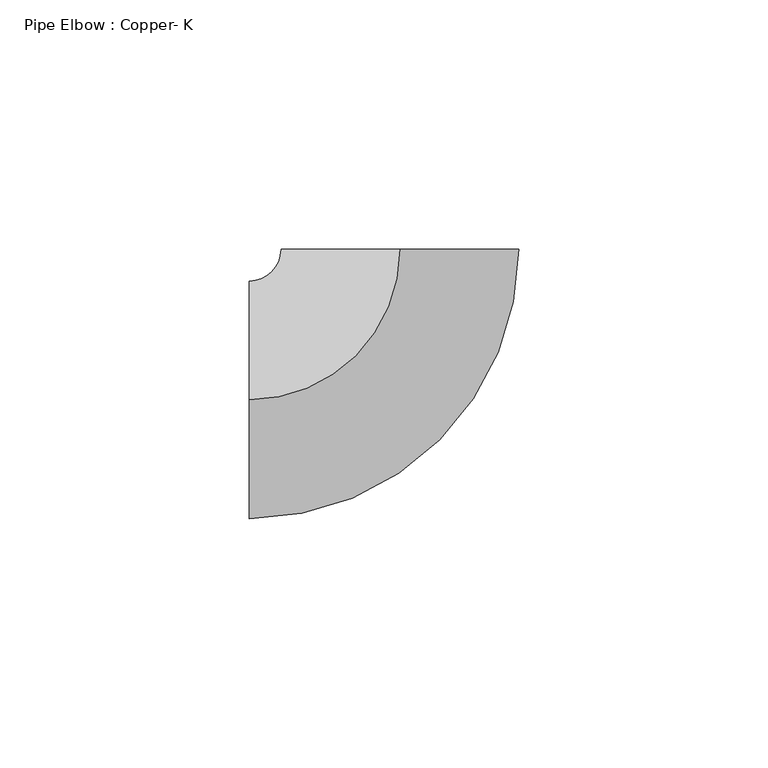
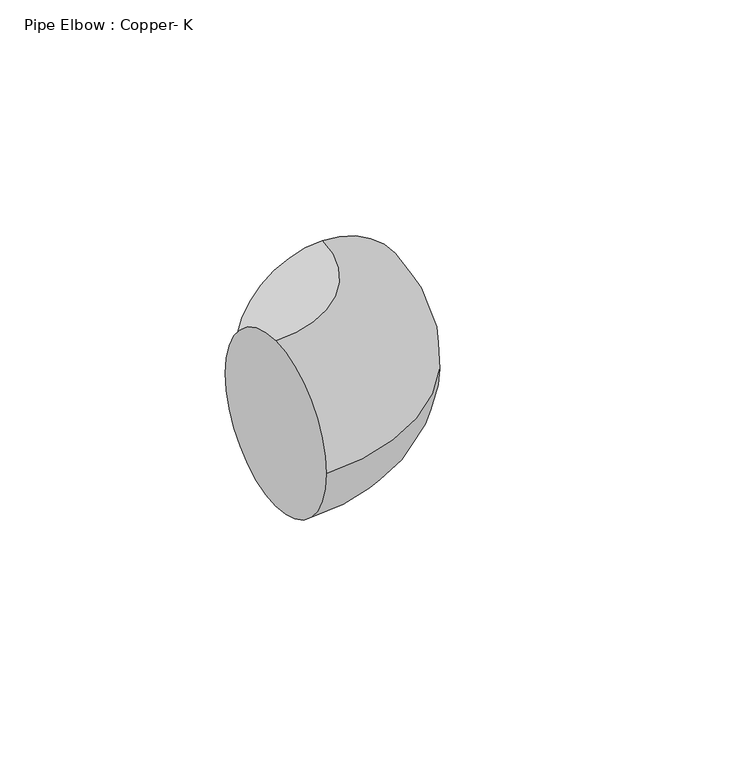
"""IFC4 building model written with IfcOpenShell, lengths in millimetres: pipe fitting geometry, Pipe Elbow : Copper- K."""

import ifcopenshell
import ifcopenshell.guid

model = None  # the IFC model being written
_history = None  # IfcOwnerHistory: only IFC2X3 demands one
_inside = {}  # id of a spatial element -> (the spatial element, [elements in it])
_under = {}  # id of a project, library or spatial element -> (it, [spatial elements below it])
_declared = {}  # id of a project -> (the project, [libraries it declares])
_typed = {}  # id of a type object -> (the type object, [elements of that type])
_made_of = {}  # id of a material, layer set ... -> (it, [elements and type objects made of it])


def new_model(schema):
    """Start an empty IFC model of exactly this schema.

    Asked for "IFC4X3", IfcOpenShell would pick the latest addendum, in which some entities
    have other attributes; the version numbers below select the first issue.
    IFC2X3 requires an IfcOwnerHistory on every rooted entity: one is made here for all.
    """
    global model, _history
    if schema == "IFC4X3":
        model = ifcopenshell.file(schema_version=(4, 3, 0, 0))
    else:
        model = ifcopenshell.file(schema=schema)
    _inside.clear()
    _under.clear()
    _declared.clear()
    _typed.clear()
    _made_of.clear()
    _history = None
    if model.schema == "IFC2X3":
        org = make("IfcOrganization", Name="unknown")
        user = make(
            "IfcPersonAndOrganization",
            ThePerson=make("IfcPerson", FamilyName="unknown"),
            TheOrganization=org,
        )
        app = make(
            "IfcApplication",
            ApplicationDeveloper=org,
            Version="unknown",
            ApplicationFullName="unknown",
            ApplicationIdentifier="unknown",
        )
        _history = make(
            "IfcOwnerHistory",
            OwningUser=user,
            OwningApplication=app,
            ChangeAction="ADDED",
            CreationDate=0,
        )
    return model


def make(cls, **values):
    """One entity of the class cls with the attributes given. An attribute that is None is left unset."""
    return model.create_entity(
        cls, **{name: value for name, value in values.items() if value is not None}
    )


def rooted(cls, **values):
    """An entity with a GlobalId (a new one), such as an element, a storey or a relation."""
    return make(cls, GlobalId=ifcopenshell.guid.new(), OwnerHistory=_history, **values)


def si_unit(unit_type, name, prefix=None):
    """IfcSIUnit, for example si_unit("LENGTHUNIT", "METRE", prefix="MILLI")."""
    return make("IfcSIUnit", UnitType=unit_type, Prefix=prefix, Name=name)


def assignment(units):
    """IfcUnitAssignment: the units of a project."""
    return None if units is None else make("IfcUnitAssignment", Units=units)


def point(xyz):
    """IfcCartesianPoint."""
    return None if xyz is None else make("IfcCartesianPoint", Coordinates=xyz)


def direction(xyz):
    """IfcDirection."""
    return None if xyz is None else make("IfcDirection", DirectionRatios=xyz)


def frame(location, z_axis=None, x_axis=None):
    """IfcAxis2Placement3D, a coordinate frame: its origin and axes. An axis left out is left unset."""
    return make(
        "IfcAxis2Placement3D",
        Location=point(location),
        Axis=direction(z_axis),
        RefDirection=direction(x_axis),
    )


def origin():
    """The frame at (0, 0, 0) with its axes left unset."""
    return frame((0.0, 0.0, 0.0))


def place(relative_to, where):
    """IfcLocalPlacement: puts the frame where relative to a parent placement (None: the world)."""
    return make(
        "IfcLocalPlacement", PlacementRelTo=relative_to, RelativePlacement=where
    )


def context(
    kind, dimensions, precision=None, world=None, true_north=None, identifier=None
):
    """IfcGeometricRepresentationContext, for example the 3D "Model" context."""
    return make(
        "IfcGeometricRepresentationContext",
        ContextIdentifier=identifier,
        ContextType=kind,
        CoordinateSpaceDimension=dimensions,
        Precision=precision,
        WorldCoordinateSystem=world,
        TrueNorth=true_north,
    )


def project(units=None, contexts=None):
    """IfcProject with its units and contexts."""
    return rooted(
        "IfcProject",
        Name="project",
        RepresentationContexts=contexts,
        UnitsInContext=assignment(units),
    )


def spatial(cls, under=None, at=None, **own):
    """A site, building, storey or space (cls), placed at a placement, below another one or the project."""
    s = rooted(cls, ObjectPlacement=at, **own)
    if under is not None:
        _under.setdefault(under.id(), (under, []))[1].append(s)
    return s


def circle_curve(where, radius):
    """IfcCircle in the frame where."""
    return make("IfcCircle", Position=where, Radius=radius)


def ellipse_curve(where, semi_axis1, semi_axis2):
    """IfcEllipse in the frame where."""
    return make(
        "IfcEllipse", Position=where, SemiAxis1=semi_axis1, SemiAxis2=semi_axis2
    )


def trimmed(basis, trim1, trim2, sense, master):
    """IfcTrimmedCurve: the piece of a basis curve between two trims."""
    return make(
        "IfcTrimmedCurve",
        BasisCurve=basis,
        Trim1=trim1,
        Trim2=trim2,
        SenseAgreement=sense,
        MasterRepresentation=master,
    )


def shape(context_of_items, identifier, shape_type, items):
    """IfcShapeRepresentation: the items that make up one representation, for example the "Body"."""
    return make(
        "IfcShapeRepresentation",
        ContextOfItems=context_of_items,
        RepresentationIdentifier=identifier,
        RepresentationType=shape_type,
        Items=items,
    )


def source(mapping_origin, context_of_items, identifier, shape_type, items):
    """IfcRepresentationMap: a shape defined once, which mapped items show again and again."""
    return make(
        "IfcRepresentationMap",
        MappingOrigin=mapping_origin,
        MappedRepresentation=shape(context_of_items, identifier, shape_type, items),
    )


def transform(
    local_origin,
    x_axis=None,
    y_axis=None,
    z_axis=None,
    scale=None,
    scale2=None,
    scale3=None,
    uniform=True,
):
    """IfcCartesianTransformationOperator3D, or its non-uniform kind. x_axis, y_axis, z_axis: its Axis1, 2, 3."""
    if uniform:
        return make(
            "IfcCartesianTransformationOperator3D",
            Axis1=direction(x_axis),
            Axis2=direction(y_axis),
            LocalOrigin=point(local_origin),
            Scale=scale,
            Axis3=direction(z_axis),
        )
    return make(
        "IfcCartesianTransformationOperator3DnonUniform",
        Axis1=direction(x_axis),
        Axis2=direction(y_axis),
        LocalOrigin=point(local_origin),
        Scale=scale,
        Axis3=direction(z_axis),
        Scale2=scale2,
        Scale3=scale3,
    )


def mapped(mapping_source, mapping_target):
    """IfcMappedItem: shows the shape of a source again, moved by a transform."""
    return make(
        "IfcMappedItem", MappingSource=mapping_source, MappingTarget=mapping_target
    )


def made_of(thing, what):
    """Note that an element or type object is made of a material, layer set ...; save() writes the relation."""
    if what is not None:
        _made_of.setdefault(what.id(), (what, []))[1].append(thing)
    return thing


def element(
    cls,
    number,
    at=None,
    inside=None,
    cuts=None,
    type_object=None,
    material=None,
    context=None,
    identifier="Body",
    shape_type=None,
    held_by="IfcProductDefinitionShape",
    body=None,
    shapes=None,
    **own,
):
    """One element of the class cls, such as IfcWall. Its Tag is "e" and its number.

    at: its placement. inside: the storey or other place that contains it. cuts: it is an
    opening in that element (IfcRelVoidsElement). A single representation is given by context,
    identifier, shape_type and body (its items); several are given by shapes. held_by: the class
    of the entity that holds the representations. save() writes the other relations.
    """
    e = rooted(cls, Tag="e%d" % number, ObjectPlacement=at, **own)
    if body is not None:
        shapes = [shape(context, identifier, shape_type, body)]
    if shapes is not None:
        e.Representation = make(held_by, Representations=shapes)
    if inside is not None:
        _inside.setdefault(inside.id(), (inside, []))[1].append(e)
    if cuts is not None:
        rooted(
            "IfcRelVoidsElement", RelatingBuildingElement=cuts, RelatedOpeningElement=e
        )
    if type_object is not None:
        _typed.setdefault(type_object.id(), (type_object, []))[1].append(e)
    return made_of(e, material)


def aggregate(whole, parts):
    """IfcRelAggregates: a whole, such as a stair, and the parts it consists of."""
    return rooted("IfcRelAggregates", RelatingObject=whole, RelatedObjects=parts)


def save(model, path):
    """Write the relations noted so far, then the file.

    IfcRelAggregates (storeys below a building ...), IfcRelContainedInSpatialStructure (elements
    in a storey), IfcRelDefinesByType, IfcRelAssociatesMaterial and IfcRelDeclares: one each for
    every whole, place, type object, material and project.
    """
    for whole, parts in _under.values():
        aggregate(whole, parts)
    for where, things in _inside.values():
        rooted(
            "IfcRelContainedInSpatialStructure",
            RelatedElements=things,
            RelatingStructure=where,
        )
    for kind, things in _typed.values():
        rooted("IfcRelDefinesByType", RelatedObjects=things, RelatingType=kind)
    for what, things in _made_of.values():
        rooted("IfcRelAssociatesMaterial", RelatedObjects=things, RelatingMaterial=what)
    for by, libraries in _declared.values():
        rooted("IfcRelDeclares", RelatingContext=by, RelatedDefinitions=libraries)
    model.write(path)


def plane_surface(at):
    """IfcPlane: the flat surface through the origin of the frame at, square to its z axis."""
    return make("IfcPlane", Position=at)


def revolved_surface(curve, axis_point, axis_direction):
    """IfcSurfaceOfRevolution: the curve turned about the line through axis_point along axis_direction."""
    return make(
        "IfcSurfaceOfRevolution",
        SweptCurve=make("IfcArbitraryOpenProfileDef", ProfileType="CURVE", Curve=curve),
        AxisPosition=make("IfcAxis1Placement", Location=point(axis_point), Axis=direction(axis_direction)),
    )


def advanced_brep(points, edges, surfaces, faces):
    """IfcAdvancedBrep: a solid bounded by faces that lie on surfaces and meet in shared edges.

    An edge is (start, end): straight between two places in points (the first is 0);
    or (start, end, curve); or (start, end, curve, False) where it runs against its curve.
    A face is (place in surfaces, loops), or (place, loops, False) where it looks against
    its surface's normal. A loop lists edges by number (the first is 1), with a minus sign
    where the edge is run from its end to its start. The first loop is the outer one.
    """
    corners = [point(p) for p in points]
    vertices = [make("IfcVertexPoint", VertexGeometry=c) for c in corners]
    made = []
    for start, end, *more in edges:
        made.append(
            make(
                "IfcEdgeCurve",
                EdgeStart=vertices[start],
                EdgeEnd=vertices[end],
                EdgeGeometry=more[0] if more else make("IfcPolyline", Points=[corners[start], corners[end]]),
                SameSense=more[1] if len(more) > 1 else True,
            )
        )
    hull = []
    for where, loops, *sense in faces:
        bounds = []
        for j, loop in enumerate(loops):
            ring = [make("IfcOrientedEdge", EdgeElement=made[abs(k) - 1], Orientation=k > 0) for k in loop]
            bounds.append(
                make(
                    "IfcFaceOuterBound" if j == 0 else "IfcFaceBound",
                    Bound=make("IfcEdgeLoop", EdgeList=ring),
                    Orientation=True,
                )
            )
        hull.append(make("IfcAdvancedFace", Bounds=bounds, FaceSurface=surfaces[where], SameSense=sense[0] if sense else True))
    return make("IfcAdvancedBrep", Outer=make("IfcClosedShell", CfsFaces=hull))


def pipe_elbow_copper_k_8886f3b6(model_context):
    return source(origin(), model_context, "Body", "AdvancedBrep", [
        advanced_brep(
        [(-30.1625099, 0.0, 23.8125), (-30.1625099, 23.8125, 0.0), (-30.1625099, 0.0, -23.8125), (-30.1625099, -23.8125, 0.0), (-9.9e-06, 30.1625099, 23.8125), (23.8124901, 30.1625177, 0.0), (-9.9e-06, 30.1625099, -23.8125), (-23.8125099, 30.1625021, 0.0)],
        [
            (0, 1, circle_curve(frame((-30.1625099, 0.0, 0.0), z_axis=(-1.0, 0.0, 0.0), x_axis=(0.0, 1.0, 0.0)), 23.8125)),
            (1, 2, circle_curve(frame((-30.1625099, 0.0, 0.0), z_axis=(-1.0, 0.0, 0.0), x_axis=(0.0, 1.0, 0.0)), 23.8125)),
            (2, 3, circle_curve(frame((-30.1625099, 0.0, 0.0), z_axis=(-1.0, 0.0, 0.0), x_axis=(0.0, 1.0, 0.0)), 23.8125)),
            (3, 0, circle_curve(frame((-30.1625099, 0.0, 0.0), z_axis=(-1.0, 0.0, 0.0), x_axis=(0.0, 1.0, 0.0)), 23.8125)),
            (4, 5, circle_curve(frame((-9.9e-06, 30.1625099, 0.0), z_axis=(-3.2783644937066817e-07, 0.9999999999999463, 0.0), x_axis=(-0.9999999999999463, -3.2783644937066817e-07, 0.0)), 23.8125)),
            (5, 6, circle_curve(frame((-9.9e-06, 30.1625099, 0.0), z_axis=(-3.2783644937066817e-07, 0.9999999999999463, 0.0), x_axis=(-0.9999999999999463, -3.2783644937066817e-07, 0.0)), 23.8125)),
            (6, 7, circle_curve(frame((-9.9e-06, 30.1625099, 0.0), z_axis=(-3.2783644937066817e-07, 0.9999999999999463, 0.0), x_axis=(-0.9999999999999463, -3.2783644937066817e-07, 0.0)), 23.8125)),
            (7, 4, circle_curve(frame((-9.9e-06, 30.1625099, 0.0), z_axis=(-3.2783644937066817e-07, 0.9999999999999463, 0.0), x_axis=(-0.9999999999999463, -3.2783644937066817e-07, 0.0)), 23.8125)),
            (7, 1, circle_curve(frame((-30.1625099, 30.1625, 0.0), z_axis=(0.0, 0.0, -1.0), x_axis=(0.0, -1.0, 0.0)), 6.35)),
            (0, 4, circle_curve(frame((-30.1625099, 30.1625, 23.8125), z_axis=(0.0, 0.0, 1.0), x_axis=(0.0, -1.0, 0.0)), 30.1625)),
            (6, 2, circle_curve(frame((-30.1625099, 30.1625, -23.8125), z_axis=(0.0, 0.0, -1.0), x_axis=(0.0, -1.0, 0.0)), 30.1625)),
            (5, 3, circle_curve(frame((-30.1625099, 30.1625, 0.0), z_axis=(0.0, 0.0, -1.0), x_axis=(0.0, -1.0, 0.0)), 53.975)),
        ],
        [
            plane_surface(frame((-30.1625099, 0.0, 0.0), z_axis=(-1.0, 0.0, 0.0), x_axis=(0.0, 0.0, 1.0))),
            plane_surface(frame((-9.9e-06, 30.1625099, 0.0), z_axis=(-3.2783644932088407e-07, 0.9999999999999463, 0.0), x_axis=(0.0, 0.0, 1.0))),
            revolved_surface(trimmed(ellipse_curve(frame((-30.1625099, 0.0, 0.0), z_axis=(-1.0, 0.0, 0.0), x_axis=(0.0, 1.0, 0.0)), 23.8125, 23.8125), [point((-30.1625099, 0.0, 23.8125))], [point((-30.1625099, 23.8125, 0.0))], True, "CARTESIAN"), (-30.1625099, 30.1625, 0.0), (0.0, 0.0, 1.0)),
            revolved_surface(trimmed(ellipse_curve(frame((-30.1625099, 0.0, 0.0), z_axis=(-1.0, 0.0, 0.0), x_axis=(0.0, 1.0, 0.0)), 23.8125, 23.8125), [point((-30.1625099, 23.8125, 0.0))], [point((-30.1625099, 0.0, -23.8125))], True, "CARTESIAN"), (-30.1625099, 30.1625, 0.0), (0.0, 0.0, 1.0)),
            revolved_surface(trimmed(ellipse_curve(frame((-30.1625099, 0.0, 0.0), z_axis=(-1.0, 0.0, 0.0), x_axis=(0.0, 1.0, 0.0)), 23.8125, 23.8125), [point((-30.1625099, 0.0, -23.8125))], [point((-30.1625099, -23.8125, 0.0))], True, "CARTESIAN"), (-30.1625099, 30.1625, 0.0), (0.0, 0.0, 1.0)),
            revolved_surface(trimmed(ellipse_curve(frame((-30.1625099, 0.0, 0.0), z_axis=(-1.0, 0.0, 0.0), x_axis=(0.0, 1.0, 0.0)), 23.8125, 23.8125), [point((-30.1625099, -23.8125, 0.0))], [point((-30.1625099, 0.0, 23.8125))], True, "CARTESIAN"), (-30.1625099, 30.1625, 0.0), (0.0, 0.0, 1.0)),
        ],
        [
            (0, [[1, 2, 3, 4]]),
            (1, [[5, 6, 7, 8]]),
            (2, [[9, -1, 10, -8]]),
            (3, [[11, -2, -9, -7]]),
            (4, [[12, -3, -11, -6]]),
            (5, [[-10, -4, -12, -5]]),
        ],
    ),
        advanced_brep(
        [(-30.1625099, 0.0, 23.8125), (-30.1625099, 23.8125, 0.0), (-30.1625099, 0.0, -23.8125), (-30.1625099, -23.8125, 0.0), (-9.9e-06, 30.1625099, 23.8125), (23.8124901, 30.1625177, 0.0), (-9.9e-06, 30.1625099, -23.8125), (-23.8125099, 30.1625021, 0.0)],
        [
            (0, 1, circle_curve(frame((-30.1625099, 0.0, 0.0), z_axis=(-1.0, 0.0, 0.0), x_axis=(0.0, 1.0, 0.0)), 23.8125)),
            (1, 2, circle_curve(frame((-30.1625099, 0.0, 0.0), z_axis=(-1.0, 0.0, 0.0), x_axis=(0.0, 1.0, 0.0)), 23.8125)),
            (2, 3, circle_curve(frame((-30.1625099, 0.0, 0.0), z_axis=(-1.0, 0.0, 0.0), x_axis=(0.0, 1.0, 0.0)), 23.8125)),
            (3, 0, circle_curve(frame((-30.1625099, 0.0, 0.0), z_axis=(-1.0, 0.0, 0.0), x_axis=(0.0, 1.0, 0.0)), 23.8125)),
            (4, 5, circle_curve(frame((-9.9e-06, 30.1625099, 0.0), z_axis=(-3.2783644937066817e-07, 0.9999999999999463, 0.0), x_axis=(-0.9999999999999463, -3.2783644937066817e-07, 0.0)), 23.8125)),
            (5, 6, circle_curve(frame((-9.9e-06, 30.1625099, 0.0), z_axis=(-3.2783644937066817e-07, 0.9999999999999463, 0.0), x_axis=(-0.9999999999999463, -3.2783644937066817e-07, 0.0)), 23.8125)),
            (6, 7, circle_curve(frame((-9.9e-06, 30.1625099, 0.0), z_axis=(-3.2783644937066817e-07, 0.9999999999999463, 0.0), x_axis=(-0.9999999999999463, -3.2783644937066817e-07, 0.0)), 23.8125)),
            (7, 4, circle_curve(frame((-9.9e-06, 30.1625099, 0.0), z_axis=(-3.2783644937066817e-07, 0.9999999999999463, 0.0), x_axis=(-0.9999999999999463, -3.2783644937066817e-07, 0.0)), 23.8125)),
            (7, 1, circle_curve(frame((-30.1625099, 30.1625, 0.0), z_axis=(0.0, 0.0, -1.0), x_axis=(0.0, -1.0, 0.0)), 6.35)),
            (0, 4, circle_curve(frame((-30.1625099, 30.1625, 23.8125), z_axis=(0.0, 0.0, 1.0), x_axis=(0.0, -1.0, 0.0)), 30.1625)),
            (6, 2, circle_curve(frame((-30.1625099, 30.1625, -23.8125), z_axis=(0.0, 0.0, -1.0), x_axis=(0.0, -1.0, 0.0)), 30.1625)),
            (5, 3, circle_curve(frame((-30.1625099, 30.1625, 0.0), z_axis=(0.0, 0.0, -1.0), x_axis=(0.0, -1.0, 0.0)), 53.975)),
        ],
        [
            plane_surface(frame((-30.1625099, 0.0, 0.0), z_axis=(-1.0, 0.0, 0.0), x_axis=(0.0, 0.0, 1.0))),
            plane_surface(frame((-9.9e-06, 30.1625099, 0.0), z_axis=(-3.2783644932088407e-07, 0.9999999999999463, 0.0), x_axis=(0.0, 0.0, 1.0))),
            revolved_surface(trimmed(ellipse_curve(frame((-30.1625099, 0.0, 0.0), z_axis=(-1.0, 0.0, 0.0), x_axis=(0.0, 1.0, 0.0)), 23.8125, 23.8125), [point((-30.1625099, 0.0, 23.8125))], [point((-30.1625099, 23.8125, 0.0))], True, "CARTESIAN"), (-30.1625099, 30.1625, 0.0), (0.0, 0.0, 1.0)),
            revolved_surface(trimmed(ellipse_curve(frame((-30.1625099, 0.0, 0.0), z_axis=(-1.0, 0.0, 0.0), x_axis=(0.0, 1.0, 0.0)), 23.8125, 23.8125), [point((-30.1625099, 23.8125, 0.0))], [point((-30.1625099, 0.0, -23.8125))], True, "CARTESIAN"), (-30.1625099, 30.1625, 0.0), (0.0, 0.0, 1.0)),
            revolved_surface(trimmed(ellipse_curve(frame((-30.1625099, 0.0, 0.0), z_axis=(-1.0, 0.0, 0.0), x_axis=(0.0, 1.0, 0.0)), 23.8125, 23.8125), [point((-30.1625099, 0.0, -23.8125))], [point((-30.1625099, -23.8125, 0.0))], True, "CARTESIAN"), (-30.1625099, 30.1625, 0.0), (0.0, 0.0, 1.0)),
            revolved_surface(trimmed(ellipse_curve(frame((-30.1625099, 0.0, 0.0), z_axis=(-1.0, 0.0, 0.0), x_axis=(0.0, 1.0, 0.0)), 23.8125, 23.8125), [point((-30.1625099, -23.8125, 0.0))], [point((-30.1625099, 0.0, 23.8125))], True, "CARTESIAN"), (-30.1625099, 30.1625, 0.0), (0.0, 0.0, 1.0)),
        ],
        [
            (0, [[1, 2, 3, 4]]),
            (1, [[5, 6, 7, 8]]),
            (2, [[9, -1, 10, -8]]),
            (3, [[11, -2, -9, -7]]),
            (4, [[12, -3, -11, -6]]),
            (5, [[-10, -4, -12, -5]]),
        ],
    ),
    ])


if __name__ == "__main__":
    model = new_model("IFC4")
    model_context = context("Model", 3, world=origin())
    ifc_project = project(units=[si_unit("LENGTHUNIT", "METRE", prefix="MILLI")], contexts=[model_context])
    site = spatial("IfcSite", under=ifc_project)
    building = spatial("IfcBuilding", under=site)
    placement = place(None, origin())
    pipe_elbow_copper_k_shape = pipe_elbow_copper_k_8886f3b6(model_context)
    element("IfcPipeFitting", 1, ObjectType="Pipe Elbow : Copper- K", at=placement, inside=building, context=model_context, shape_type="MappedRepresentation", body=[
        mapped(pipe_elbow_copper_k_shape, transform((0.0, 0.0, 0.0), x_axis=(1.0, 0.0, 0.0), y_axis=(0.0, 1.0, 0.0), z_axis=(0.0, 0.0, 1.0))),
    ])
    save(model, "model.ifc")
